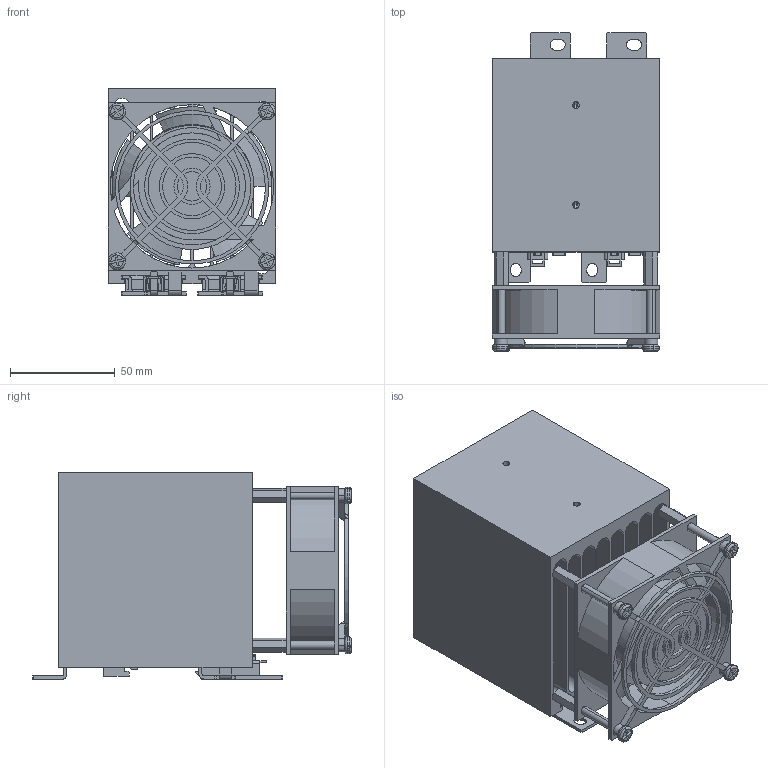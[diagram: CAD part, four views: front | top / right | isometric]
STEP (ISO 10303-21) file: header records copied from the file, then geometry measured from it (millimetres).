
FILE_DESCRIPTION (( 'STEP AP214' ), '1' );
FILE_NAME ('HS_008.STEP', '2024-04-12T11:31:38', ( '' ), ( '' ), 'SwSTEP 2.0', 'SolidWorks 2022', '' );
FILE_SCHEMA (( 'AUTOMOTIVE_DESIGN' ));
Length unit declared in the file: millimetre
Products named in the file (1): HS_008
Bounding box: 80 x 152 x 98.4 mm (x, y, z)
Volume: 255630.4 mm3; surface area: 221119.2 mm2
Topology: 1 solids, 6 shells, 1101 faces, 3256 edges, 2118 vertices
Faces by surface type: plane 601, cylinder 296, bspline 190, cone 14
Entity records: 40935 total; most frequent: CARTESIAN_POINT 11390, ORIENTED_EDGE 6484, DIRECTION 5995, EDGE_CURVE 3242, VERTEX_POINT 2118, AXIS2_PLACEMENT_3D 2023, LINE 1949, VECTOR 1949
